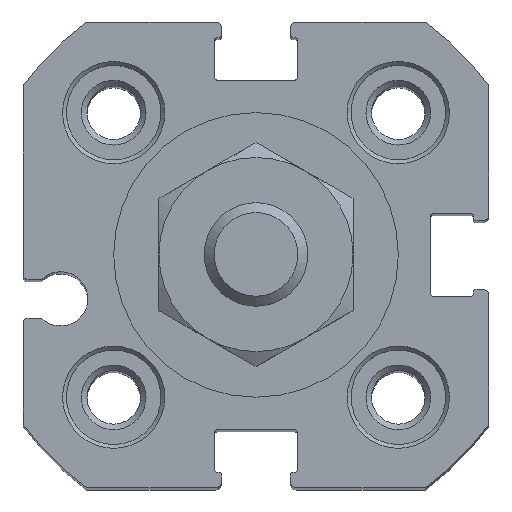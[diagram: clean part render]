
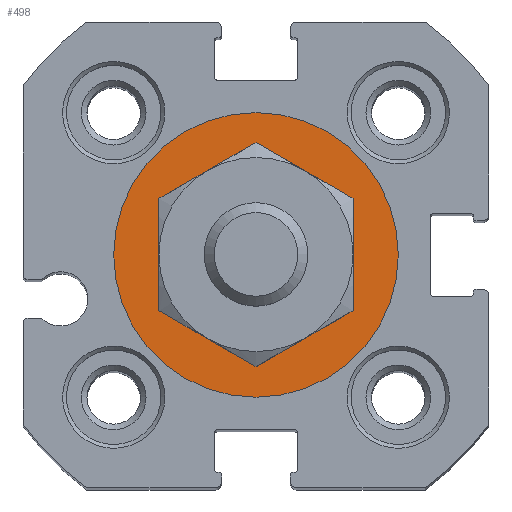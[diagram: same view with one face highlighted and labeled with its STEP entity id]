
A CAD part, top view. The second image highlights one B-rep face of the part: STEP entity #498.
In plain terms, the highlighted planar face has unit normal (0, 0, 1).
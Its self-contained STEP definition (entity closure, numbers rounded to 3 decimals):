
#498 = ADVANCED_FACE( '', ( #1038, #1039 ), #1040, .T. );
#1038 = FACE_BOUND( '', #1584, .T. );
#1039 = FACE_OUTER_BOUND( '', #1585, .T. );
#1040 = PLANE( '', #1586 );
#1584 = EDGE_LOOP( '', ( #2723 ) );
#1585 = EDGE_LOOP( '', ( #2724 ) );
#1586 = AXIS2_PLACEMENT_3D( '', #2725, #2726, #2727 );
#2723 = ORIENTED_EDGE( '', *, *, #3274, .F. );
#2724 = ORIENTED_EDGE( '', *, *, #3337, .T. );
#2725 = CARTESIAN_POINT( '', ( 0., 0., -1.2 ) );
#2726 = DIRECTION( '', ( 0., 0., 1. ) );
#2727 = DIRECTION( '', ( 1., 0., 0. ) );
#3274 = EDGE_CURVE( '', #3957, #3957, #3958, .T. );
#3337 = EDGE_CURVE( '', #4030, #4030, #4031, .T. );
#3957 = VERTEX_POINT( '', #4921 );
#3958 = CIRCLE( '', #4922, 6.5 );
#4030 = VERTEX_POINT( '', #5010 );
#4031 = CIRCLE( '', #5011, 11. );
#4921 = CARTESIAN_POINT( '', ( 6.5, 0., -1.2 ) );
#4922 = AXIS2_PLACEMENT_3D( '', #5545, #5546, #5547 );
#5010 = CARTESIAN_POINT( '', ( 11., 0., -1.2 ) );
#5011 = AXIS2_PLACEMENT_3D( '', #5604, #5605, #5606 );
#5545 = CARTESIAN_POINT( '', ( 0., 0., -1.2 ) );
#5546 = DIRECTION( '', ( 0., 0., 1. ) );
#5547 = DIRECTION( '', ( 1., 0., 0. ) );
#5604 = CARTESIAN_POINT( '', ( 0., 0., -1.2 ) );
#5605 = DIRECTION( '', ( 0., 0., 1. ) );
#5606 = DIRECTION( '', ( 1., 0., 0. ) );
